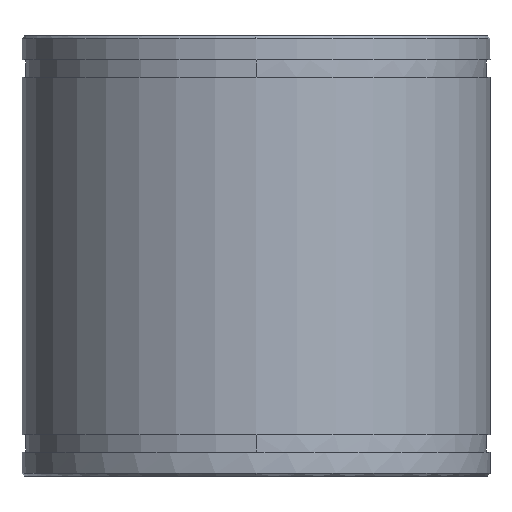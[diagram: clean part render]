
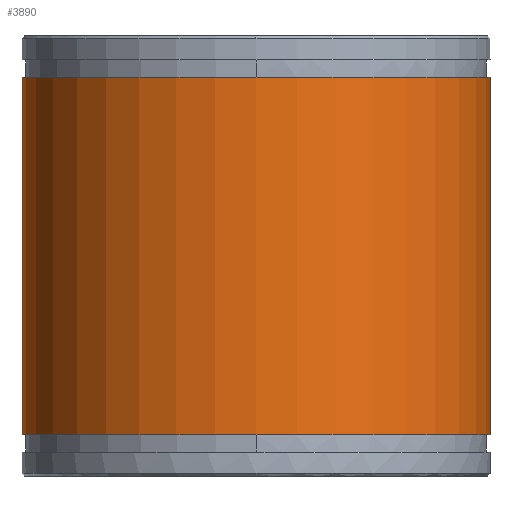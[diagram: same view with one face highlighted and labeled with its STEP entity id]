
A CAD part, front view. The second image highlights one B-rep face of the part: STEP entity #3890.
In plain terms, the highlighted cylindrical face has radius 42.5 mm (diameter 85 mm), a partial arc.
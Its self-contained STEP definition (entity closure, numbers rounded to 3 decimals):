
#3788=CARTESIAN_POINT('Axis2P3D Location',(0.,0.,72.5)) ;
#3792=CARTESIAN_POINT('Vertex',(-42.5,0.,72.5)) ;
#3794=CARTESIAN_POINT('Vertex',(42.5,0.,72.5)) ;
#3860=CARTESIAN_POINT('Axis2P3D Location',(0.,0.,-4.)) ;
#3865=CARTESIAN_POINT('Line Origine',(42.5,0.,40.)) ;
#3869=CARTESIAN_POINT('Vertex',(42.5,0.,7.5)) ;
#3872=CARTESIAN_POINT('Line Origine',(-42.5,0.,40.)) ;
#3876=CARTESIAN_POINT('Vertex',(-42.5,0.,7.5)) ;
#3879=CARTESIAN_POINT('Axis2P3D Location',(0.,0.,7.5)) ;
#3789=DIRECTION('Axis2P3D Direction',(0.,-0.,1.)) ;
#3861=DIRECTION('Axis2P3D Direction',(0.,0.,1.)) ;
#3862=DIRECTION('Axis2P3D XDirection',(-1.,0.,0.)) ;
#3866=DIRECTION('Vector Direction',(0.,0.,1.)) ;
#3873=DIRECTION('Vector Direction',(0.,0.,1.)) ;
#3880=DIRECTION('Axis2P3D Direction',(0.,0.,1.)) ;
#3790=AXIS2_PLACEMENT_3D('Circle Axis2P3D',#3788,#3789,$) ;
#3863=AXIS2_PLACEMENT_3D('Cylinder Axis2P3D',#3860,#3861,#3862) ;
#3881=AXIS2_PLACEMENT_3D('Circle Axis2P3D',#3879,#3880,$) ;
#3885=ORIENTED_EDGE('',*,*,#3871,.F.) ;
#3886=ORIENTED_EDGE('',*,*,#3796,.F.) ;
#3887=ORIENTED_EDGE('',*,*,#3878,.T.) ;
#3888=ORIENTED_EDGE('',*,*,#3883,.F.) ;
#3867=VECTOR('Line Direction',#3866,1.) ;
#3874=VECTOR('Line Direction',#3873,1.) ;
#3890=ADVANCED_FACE('MANIFOLD_SOLID_BREP #3200',(#3889),#3864,.T.) ;
#3791=CIRCLE('generated circle',#3790,42.5) ;
#3882=CIRCLE('generated circle',#3881,42.5) ;
#3864=CYLINDRICAL_SURFACE('generated cylinder',#3863,42.5) ;
#3796=EDGE_CURVE('',#3793,#3795,#3791,.T.) ;
#3871=EDGE_CURVE('',#3795,#3870,#3868,.F.) ;
#3878=EDGE_CURVE('',#3793,#3877,#3875,.F.) ;
#3883=EDGE_CURVE('',#3870,#3877,#3882,.F.) ;
#3884=EDGE_LOOP('',(#3885,#3886,#3887,#3888)) ;
#3889=FACE_OUTER_BOUND('',#3884,.T.) ;
#3868=LINE('Line',#3865,#3867) ;
#3875=LINE('Line',#3872,#3874) ;
#3793=VERTEX_POINT('',#3792) ;
#3795=VERTEX_POINT('',#3794) ;
#3870=VERTEX_POINT('',#3869) ;
#3877=VERTEX_POINT('',#3876) ;
